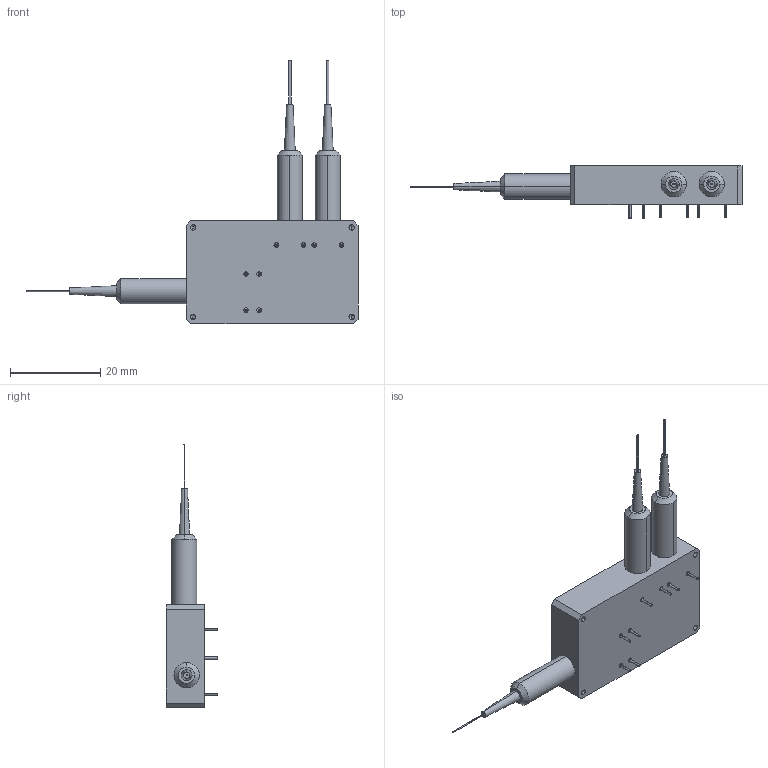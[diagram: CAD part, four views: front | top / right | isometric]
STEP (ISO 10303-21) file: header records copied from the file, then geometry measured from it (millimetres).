
FILE_DESCRIPTION (( 'STEP AP214' ), '1' );
FILE_NAME ('CL 1x4 switch.STEP', '2025-10-06T19:36:16', ( '' ), ( '' ), 'SwSTEP 2.0', 'SolidWorks 2022', '' );
FILE_SCHEMA (( 'AUTOMOTIVE_DESIGN' ));
Length unit declared in the file: millimetre
Products named in the file (1): CL 1x4 switch
Bounding box: 73.5 x 11.49 x 58.3 mm (x, y, z)
Volume: 8550.7 mm3; surface area: 3820.5 mm2
Topology: 1 solids, 1 shells, 632 faces, 1634 edges, 1082 vertices
Faces by surface type: plane 340, bspline 212, cylinder 60, cone 20
Entity records: 30750 total; most frequent: CARTESIAN_POINT 16617, ORIENTED_EDGE 3252, DIRECTION 2186, EDGE_CURVE 1626, VERTEX_POINT 1082, LINE 1060, VECTOR 1060, EDGE_LOOP 718
